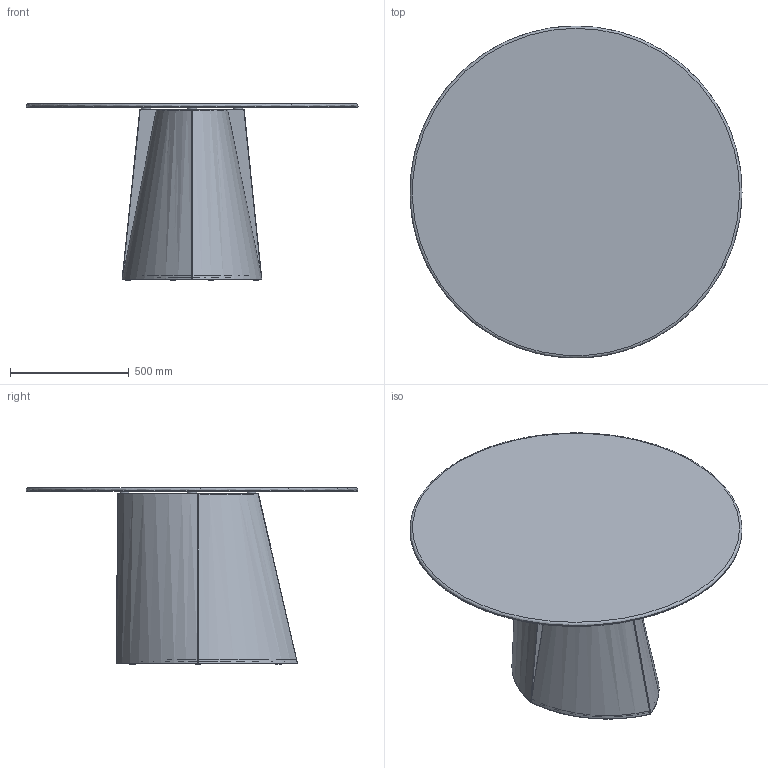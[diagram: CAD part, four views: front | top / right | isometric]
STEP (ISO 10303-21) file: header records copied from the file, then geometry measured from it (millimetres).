
FILE_DESCRIPTION(/* description */ (''),/* implementation_level */ '2;1');
FILE_NAME(/* name */ 'OGIT140_3D',/* time_stamp */ '2026-06-30T10:10:16+02:00',/* author */ (''),/* organization */ (''),/* preprocessor_version */ 'ST-DEVELOPER v16.5',/* originating_system */ '',/* authorisation */ '');
FILE_SCHEMA (('CONFIG_CONTROL_DESIGN'));
Length unit declared in the file: millimetre
Products named in the file (1): Document
Bounding box: 1399.86 x 1399.66 x 745.02 mm (x, y, z)
Volume: 27184772.5 mm3; surface area: 6774009.4 mm2
Topology: 23 solids, 23 shells, 253 faces, 511 edges, 304 vertices
Faces by surface type: plane 160, bspline 93
Entity records: 8505 total; most frequent: CARTESIAN_POINT 4865, ORIENTED_EDGE 1022, EDGE_CURVE 511, B_SPLINE_CURVE_WITH_KNOTS 360, VERTEX_POINT 304, EDGE_LOOP 273, ADVANCED_FACE 253, FACE_OUTER_BOUND 253
